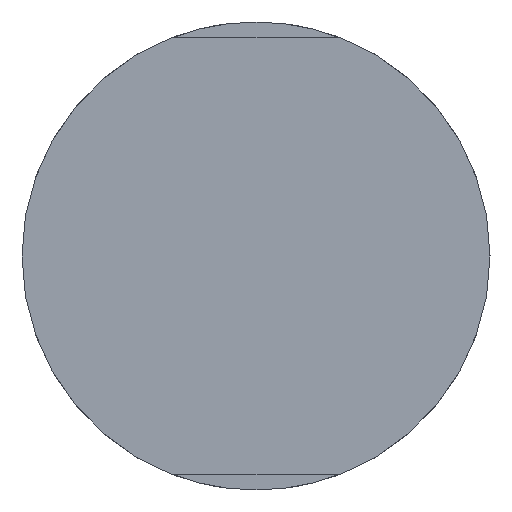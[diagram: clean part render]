
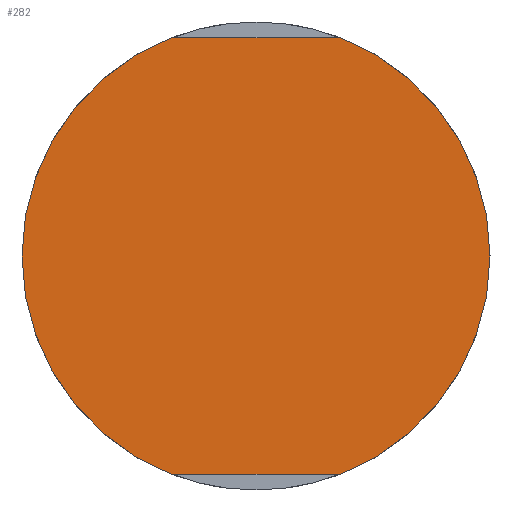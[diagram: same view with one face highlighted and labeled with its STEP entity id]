
A CAD part, left-side view. The second image highlights one B-rep face of the part: STEP entity #282.
In plain terms, the highlighted planar face has unit normal (-1, 0, 0).
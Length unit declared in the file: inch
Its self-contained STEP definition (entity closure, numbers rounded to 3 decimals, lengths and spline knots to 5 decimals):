
#2 = CARTESIAN_POINT ( 'NONE',  ( 0., 0., 0. ) ) ;
#7 = DIRECTION ( 'NONE',  ( 0., 0., -1. ) ) ;
#20 = CARTESIAN_POINT ( 'NONE',  ( 0., 0., 0. ) ) ;
#22 = DIRECTION ( 'NONE',  ( 0., 0., -1. ) ) ;
#36 = DIRECTION ( 'NONE',  ( 1., 0., 0. ) ) ;
#38 = DIRECTION ( 'NONE',  ( 1., 0., 0. ) ) ;
#49 = CARTESIAN_POINT ( 'NONE',  ( 0., 0.06731, 0.175 ) ) ;
#52 = CARTESIAN_POINT ( 'NONE',  ( 0., 0.06731, -0.175 ) ) ;
#54 = PLANE ( 'NONE',  #319 ) ;
#55 = DIRECTION ( 'NONE',  ( 0., 0., -1. ) ) ;
#56 = CARTESIAN_POINT ( 'NONE',  ( 0., 0., 0. ) ) ;
#65 = DIRECTION ( 'NONE',  ( 1., 0., 0. ) ) ;
#69 = CARTESIAN_POINT ( 'NONE',  ( 0., -0.06731, -0.175 ) ) ;
#75 = CARTESIAN_POINT ( 'NONE',  ( 0., -0.06731, 0.175 ) ) ;
#77 = CARTESIAN_POINT ( 'NONE',  ( 0., -0.44598, 0.175 ) ) ;
#82 = DIRECTION ( 'NONE',  ( 0., -1., 0. ) ) ;
#126 = CARTESIAN_POINT ( 'NONE',  ( 0., -0.44598, -0.175 ) ) ;
#140 = DIRECTION ( 'NONE',  ( 0., -1., 0. ) ) ;
#150 = EDGE_LOOP ( 'NONE', ( #197, #170, #165, #179 ) ) ;
#157 = VERTEX_POINT ( 'NONE', #49 ) ;
#165 = ORIENTED_EDGE ( 'NONE', *, *, #301, .F. ) ;
#170 = ORIENTED_EDGE ( 'NONE', *, *, #314, .F. ) ;
#179 = ORIENTED_EDGE ( 'NONE', *, *, #313, .F. ) ;
#190 = VERTEX_POINT ( 'NONE', #69 ) ;
#197 = ORIENTED_EDGE ( 'NONE', *, *, #304, .T. ) ;
#221 = FACE_OUTER_BOUND ( 'NONE', #150, .T. ) ;
#229 = LINE ( 'NONE', #77, #247 ) ;
#231 = LINE ( 'NONE', #126, #246 ) ;
#240 = CIRCLE ( 'NONE', #348, 0.1875 ) ;
#246 = VECTOR ( 'NONE', #140, 39.37008 ) ;
#247 = VECTOR ( 'NONE', #82, 39.37008 ) ;
#250 = CIRCLE ( 'NONE', #324, 0.1875 ) ;
#269 = VERTEX_POINT ( 'NONE', #75 ) ;
#270 = VERTEX_POINT ( 'NONE', #52 ) ;
#282 = ADVANCED_FACE ( 'NONE', ( #221 ), #54, .F. ) ;
#301 = EDGE_CURVE ( 'NONE', #157, #269, #229, .T. ) ;
#304 = EDGE_CURVE ( 'NONE', #270, #190, #231, .T. ) ;
#313 = EDGE_CURVE ( 'NONE', #270, #157, #240, .T. ) ;
#314 = EDGE_CURVE ( 'NONE', #269, #190, #250, .T. ) ;
#319 = AXIS2_PLACEMENT_3D ( 'NONE', #56, #65, #55 ) ;
#324 = AXIS2_PLACEMENT_3D ( 'NONE', #2, #38, #7 ) ;
#348 = AXIS2_PLACEMENT_3D ( 'NONE', #20, #36, #22 ) ;
